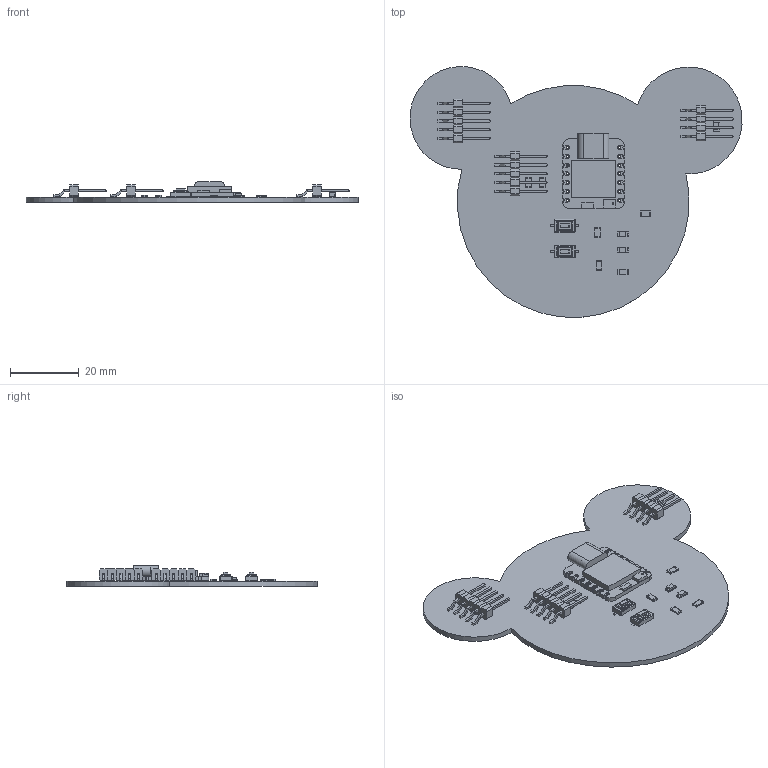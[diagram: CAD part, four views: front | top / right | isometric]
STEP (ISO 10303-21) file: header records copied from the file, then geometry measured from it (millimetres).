
FILE_DESCRIPTION(('KiCad electronic assembly'),'2;1');
FILE_NAME('PLACA MODIFICADA.step','2026-03-16T02:00:09',('Pcbnew'),( 'Kicad'),'Open CASCADE STEP processor 7.9','KiCad to STEP converter' ,'Unknown');
FILE_SCHEMA(('AUTOMOTIVE_DESIGN { 1 0 10303 214 1 1 1 1 }'));
Length unit declared in the file: millimetre
Products named in the file (49): PLACA MODIFICADA 1; Capacitor-1206; Body; Contact; ContactClone; LED-1206; Base; Emmiter; Contact_1; Contact_2; Resistor-1206; Ceramic; Contacts; Contacts (Mirror #1); Overcoat; Switch_CnK-PTS636SM25FSMTR; LeadA; LeadB; Cover; Button; Header_SMD_01x04_P2.54mm_Horizontal_Male; PLACA MODIFICADA 1.7.1; PLACA MODIFICADA 1.7.2; Seeed_XIAO-nRF52840_Sense; SoC_nRF_Sense; Mic_nRF_Sense; Antenna_nRF_Sense; XIAO_Generic; Board; USB; Contact Clones; Body007; Body008; Body009; Body010; Body011; Body012; Body013; Body014; Body015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
Assembly tree (56 placements, depth 5):
  PLACA MODIFICADA 1
    Capacitor-1206
      Body
      Contact
      ContactClone
    LED-1206  x2
      Base
      Emmiter
      Contact_1
      Contact_2
    Resistor-1206  x6
      Ceramic
      Contacts
      Contacts (Mirror #1)
      Overcoat
    Switch_CnK-PTS636SM25FSMTR  x2
      LeadA
      LeadB
      Cover
      Button
    Header_SMD_01x04_P2.54mm_Horizontal_Male
      PLACA MODIFICADA 1.7.1
      PLACA MODIFICADA 1.7.2
    Seeed_XIAO-nRF52840_Sense
      SoC_nRF_Sense
      Mic_nRF_Sense
      Antenna_nRF_Sense
      XIAO_Generic
        Board
        USB
        Contact
        Contact Clones
          Body007
          Body008
          Body009
          Body010
          Body011
          Body012
          Body013
          Body014
          Body015
          Body016
          Body017
          Body018
          Body019
    Header_SMD_01x05_P2.54mm_Horizontal_Male  x2
      PLACA MODIFICADA 1.12.1
      PLACA MODIFICADA 1.12.2
    PLACA MODIFICADA_PCB
Bounding box: 96.35 x 72.75 x 6.05 mm (x, y, z)
Volume: 8465.7 mm3; surface area: 13475.2 mm2
Topology: 91 solids, 91 shells, 1364 faces, 3145 edges, 1952 vertices
Faces by surface type: plane 1097, cylinder 207, revolution 28, bspline 16, sphere 16
Full cylindrical faces by diameter (mm): 0.5 x1, 0.7 x14, 0.8 x42
Entity records: 26502 total; most frequent: CARTESIAN_POINT 4825, DIRECTION 4257, ORIENTED_EDGE 4118, EDGE_CURVE 2059, LINE 1659, VECTOR 1659, VERTEX_POINT 1292, AXIS2_PLACEMENT_3D 1290
